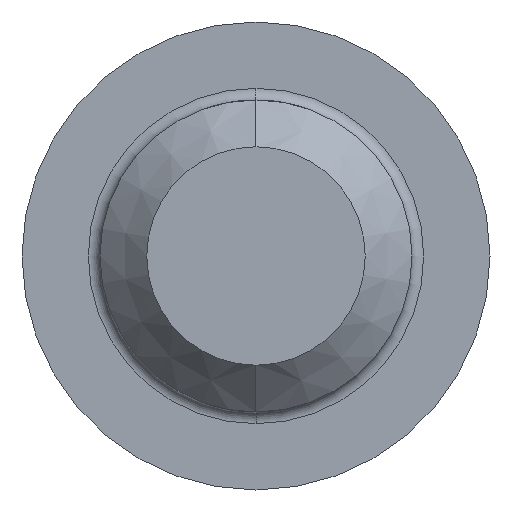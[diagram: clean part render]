
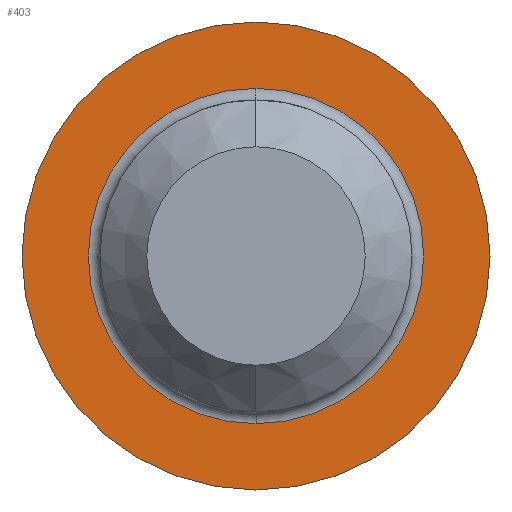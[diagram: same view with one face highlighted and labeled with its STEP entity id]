
A CAD part, left-side view. The second image highlights one B-rep face of the part: STEP entity #403.
In plain terms, the highlighted planar face has unit normal (-1, 0, 0).
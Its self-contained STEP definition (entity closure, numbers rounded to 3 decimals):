
#48 = CARTESIAN_POINT ( 'NONE',  ( 0., 0., 6. ) ) ;
#51 = DIRECTION ( 'NONE',  ( 0., 0., 1. ) ) ;
#52 = DIRECTION ( 'NONE',  ( -1., 0., 0. ) ) ;
#53 = CARTESIAN_POINT ( 'NONE',  ( 0., 0., 0. ) ) ;
#54 = CARTESIAN_POINT ( 'NONE',  ( 0., 0., -6. ) ) ;
#56 = AXIS2_PLACEMENT_3D ( 'NONE', #53, #52, #51 ) ;
#57 = CIRCLE ( 'NONE', #56, 6. ) ;
#141 = DIRECTION ( 'NONE',  ( 0., 0., -1. ) ) ;
#179 = CARTESIAN_POINT ( 'NONE',  ( 0., 0., -4.3 ) ) ;
#180 = DIRECTION ( 'NONE',  ( 1., 0., 0. ) ) ;
#184 = FACE_BOUND ( 'NONE', #400, .T. ) ;
#194 = DIRECTION ( 'NONE',  ( 0., 0., -1. ) ) ;
#195 = DIRECTION ( 'NONE',  ( 1., 0., 0. ) ) ;
#196 = AXIS2_PLACEMENT_3D ( 'NONE', #201, #195, #194 ) ;
#197 = CIRCLE ( 'NONE', #196, 4.3 ) ;
#201 = CARTESIAN_POINT ( 'NONE',  ( 0., 0., 0. ) ) ;
#215 = PLANE ( 'NONE',  #217 ) ;
#216 = CARTESIAN_POINT ( 'NONE',  ( 0., 0., 4.3 ) ) ;
#217 = AXIS2_PLACEMENT_3D ( 'NONE', #228, #180, #141 ) ;
#224 = FACE_OUTER_BOUND ( 'NONE', #457, .T. ) ;
#228 = CARTESIAN_POINT ( 'NONE',  ( 0., 6., 0. ) ) ;
#363 = EDGE_CURVE ( 'NONE', #368, #369, #57, .T. ) ;
#368 = VERTEX_POINT ( 'NONE', #48 ) ;
#369 = VERTEX_POINT ( 'NONE', #54 ) ;
#394 = EDGE_CURVE ( 'NONE', #369, #368, #540, .T. ) ;
#398 = EDGE_CURVE ( 'NONE', #409, #408, #521, .T. ) ;
#399 = ORIENTED_EDGE ( 'NONE', *, *, #363, .T. ) ;
#400 = EDGE_LOOP ( 'NONE', ( #404, #401 ) ) ;
#401 = ORIENTED_EDGE ( 'NONE', *, *, #439, .T. ) ;
#403 = ADVANCED_FACE ( 'NONE', ( #184, #224 ), #215, .F. ) ;
#404 = ORIENTED_EDGE ( 'NONE', *, *, #398, .T. ) ;
#408 = VERTEX_POINT ( 'NONE', #216 ) ;
#409 = VERTEX_POINT ( 'NONE', #179 ) ;
#439 = EDGE_CURVE ( 'NONE', #408, #409, #197, .T. ) ;
#457 = EDGE_LOOP ( 'NONE', ( #399, #458 ) ) ;
#458 = ORIENTED_EDGE ( 'NONE', *, *, #394, .T. ) ;
#506 = CARTESIAN_POINT ( 'NONE',  ( 0., 0., 0. ) ) ;
#512 = DIRECTION ( 'NONE',  ( 0., 0., -1. ) ) ;
#513 = DIRECTION ( 'NONE',  ( 1., 0., 0. ) ) ;
#521 = CIRCLE ( 'NONE', #523, 4.3 ) ;
#523 = AXIS2_PLACEMENT_3D ( 'NONE', #506, #513, #512 ) ;
#528 = DIRECTION ( 'NONE',  ( 0., 0., 1. ) ) ;
#529 = DIRECTION ( 'NONE',  ( -1., 0., 0. ) ) ;
#530 = CARTESIAN_POINT ( 'NONE',  ( 0., 0., 0. ) ) ;
#531 = AXIS2_PLACEMENT_3D ( 'NONE', #530, #529, #528 ) ;
#540 = CIRCLE ( 'NONE', #531, 6. ) ;
